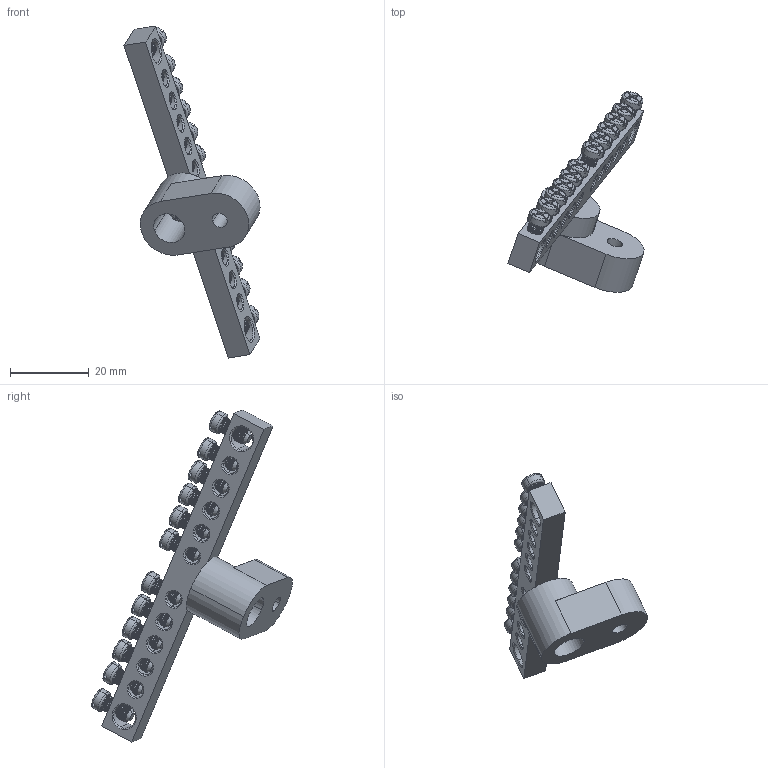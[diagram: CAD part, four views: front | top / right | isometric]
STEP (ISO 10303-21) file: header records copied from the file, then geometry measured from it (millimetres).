
FILE_DESCRIPTION (( 'STEP AP214' ), '1' );
FILE_NAME ('277928 Optikit BB-O-N-S-12-6õ9-ñèíèé.STEP', '2020-02-06T13:00:25', ( '' ), ( '' ), 'SwSTEP 2.0', 'SolidWorks 2018', '' );
FILE_SCHEMA (( 'AUTOMOTIVE_DESIGN' ));
Length unit declared in the file: millimetre
Products named in the file (5): Øèíà íóëåâàÿ ñ êðåïåæíûì îòâåðñòèåì ïî öåíòðó 6õ9 12-1_1; Øèíà 6õ9 12 1; Âèíò ì4; DIN èçîëÿòîð 2; 277928 Optikit BB-O-N-S-12-6õ9-ñèíèé
Assembly tree (16 placements, depth 3):
  277928 Optikit BB-O-N-S-12-6õ9-ñèíèé
    DIN èçîëÿòîð 2
    Âèíò ì4
    Øèíà íóëåâàÿ ñ êðåïåæíûì îòâåðñòèåì ïî öåíòðó 6õ9 12-1_1
      Øèíà 6õ9 12 1
      Âèíò ì4  x12
Bounding box: 34.49 x 50.9 x 84.17 mm (x, y, z)
Volume: 9522.8 mm3; surface area: 8780 mm2
Topology: 15 solids, 15 shells, 1029 faces, 2855 edges, 1844 vertices
Faces by surface type: plane 363, cylinder 358, cone 165, torus 91, bspline 52
Entity records: 8911 total; most frequent: CARTESIAN_POINT 3775, ORIENTED_EDGE 978, DIRECTION 970, EDGE_CURVE 489, AXIS2_PLACEMENT_3D 386, VERTEX_POINT 308, EDGE_LOOP 245, LINE 198
